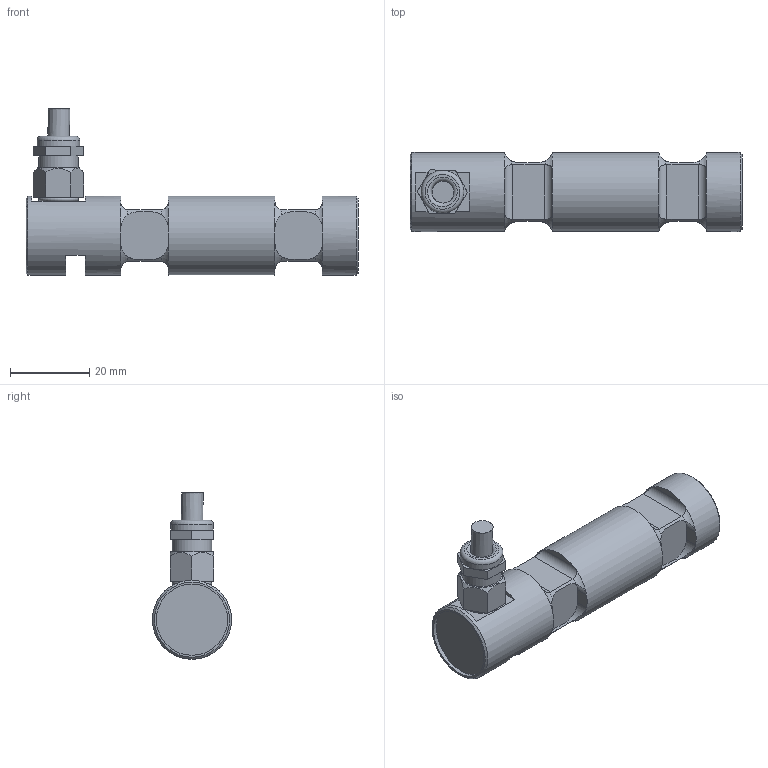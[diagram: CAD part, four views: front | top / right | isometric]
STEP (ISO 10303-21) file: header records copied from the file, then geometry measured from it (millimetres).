
FILE_DESCRIPTION(/* description */ ('Alibre Inc.'),/* implementation_level */ '2;1');
FILE_NAME(/* name */ 'export0',/* time_stamp */ '2016-04-07T15:40:25+02:00',/* author */ (''),/* organization */ (''),/* preprocessor_version */ 'ST-DEVELOPER v14',/* originating_system */ 'Alibre',/* authorisation */ '');
FILE_SCHEMA (('CONFIG_CONTROL_DESIGN'));
Length unit declared in the file: centimetre
Products named in the file (6): ID_1; ID_2; ID_3
Bounding box: 84 x 20 x 42.1 mm (x, y, z)
Volume: 23550.2 mm3; surface area: 8061.2 mm2
Topology: 4 solids, 4 shells, 130 faces, 307 edges, 191 vertices
Faces by surface type: plane 63, cylinder 42, torus 19, cone 5, bspline 1
Full cylindrical faces by diameter (mm): 5.5 x1, 6 x1, 6.917 x1, 8 x1, 10 x1, 10.8 x1, 18 x1, 20 x3
Entity records: 7127 total; most frequent: CARTESIAN_POINT 4005, ORIENTED_EDGE 564, DIRECTION 404, EDGE_CURVE 282, VERTEX_POINT 186, AXIS2_PLACEMENT_3D 175, FACE_BOUND 158, EDGE_LOOP 157
